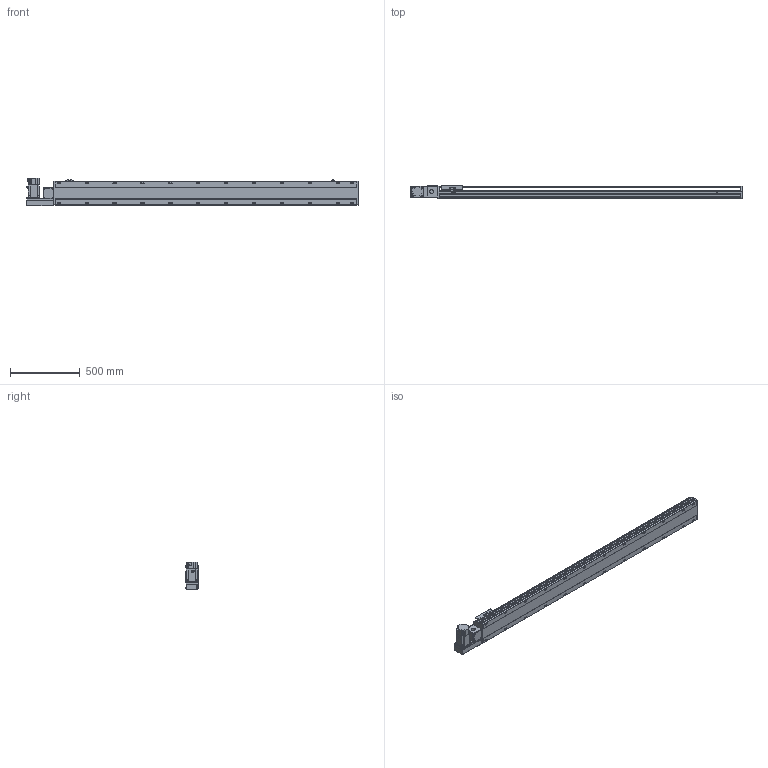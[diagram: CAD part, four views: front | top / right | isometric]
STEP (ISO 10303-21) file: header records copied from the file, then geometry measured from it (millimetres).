
FILE_DESCRIPTION( ( 'STEP AP214' ), '1' );
FILE_NAME( 'x:/temp/worker_4/temp/exporttempdir_2248_216_AI6ge/format_0/PBS170-P40-S1900-L-T75-C1-N(0).stp', '2022-06-07T06:57:56', ( 'License CC BY-ND 4.0' ), ( 'CADENAS' ), ' ', 'PARTsolutions', ' ' );
FILE_SCHEMA( ( 'AUTOMOTIVE_DESIGN { 1 0 10303 214 1 1 1 1 }' ) );
Length unit declared in the file: millimetre
Products named in the file (7): PBS170-P40-S1900-L-T75-C1-N(0); _PBS170-S1900()_body; _PBS170T-L_motors; _T75-p1; _PBS170_sliser; _PBS170_plant; _PBS170_sensor
Assembly tree (8 placements, depth 2):
  PBS170-P40-S1900-L-T75-C1-N(0)
    _PBS170-S1900()_body
    _PBS170T-L_motors
    _T75-p1
    _PBS170_sliser
    _PBS170_plant
    _PBS170_sensor  x3
Bounding box: 2378 x 97 x 197.3 mm (x, y, z)
Volume: 17402113.4 mm3; surface area: 2214293.6 mm2
Topology: 8 solids, 8 shells, 1146 faces, 3035 edges, 1978 vertices
Faces by surface type: plane 711, cylinder 371, cone 54, sphere 8, torus 2
Full cylindrical faces by diameter (mm): 3.242 x4, 4 x2, 4.4 x4, 4.5 x6, 4.917 x4, 6 x9, 6.647 x32, 7 x2, 7.5 x4, 8 x8, 8.5 x24, 10 x4, 10.5 x24, 11 x2, 30 x2, 40 x1, 70 x1
Entity records: 42308 total; most frequent: CARTESIAN_POINT 6893, DIRECTION 5580, ORIENTED_EDGE 5268, EDGE_CURVE 2634, AXIS2_PLACEMENT_3D 1957, VERTEX_POINT 1826, LINE 1666, VECTOR 1666
